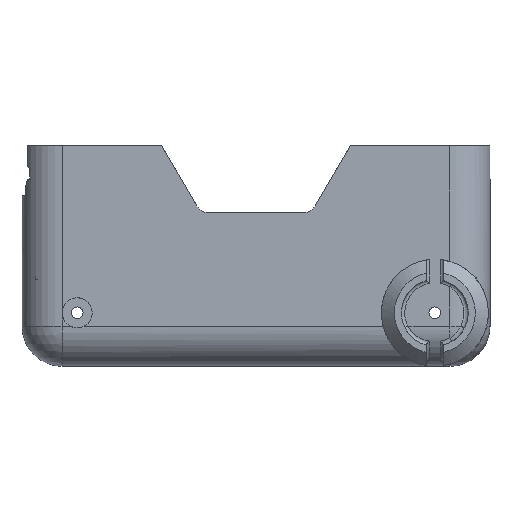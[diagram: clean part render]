
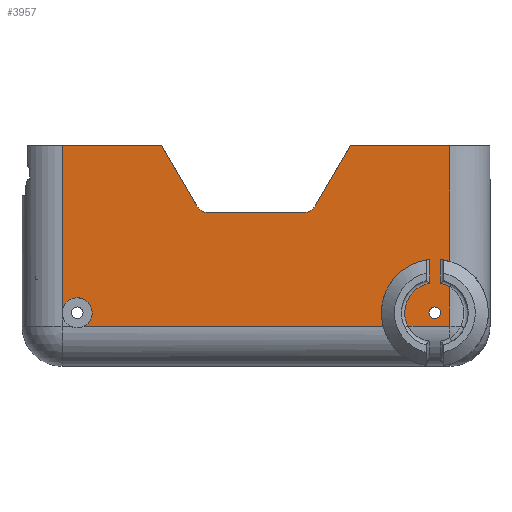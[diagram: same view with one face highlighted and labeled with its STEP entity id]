
A CAD part, left-side view. The second image highlights one B-rep face of the part: STEP entity #3957.
In plain terms, the highlighted planar face has unit normal (-1, 0, 0).
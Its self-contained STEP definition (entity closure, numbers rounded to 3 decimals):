
#137=CIRCLE('',#4210,4.5);
#145=CIRCLE('',#4223,8.);
#146=CIRCLE('',#4224,2.);
#147=CIRCLE('',#4225,2.);
#148=CIRCLE('',#4226,2.25);
#149=CIRCLE('',#4227,8.);
#150=CIRCLE('',#4228,4.5);
#151=CIRCLE('',#4229,0.875);
#437=VERTEX_POINT('',#6662);
#440=VERTEX_POINT('',#6680);
#449=VERTEX_POINT('',#7079);
#451=VERTEX_POINT('',#7086);
#452=VERTEX_POINT('',#7088);
#456=VERTEX_POINT('',#7117);
#457=VERTEX_POINT('',#7118);
#463=VERTEX_POINT('',#7168);
#464=VERTEX_POINT('',#7169);
#465=VERTEX_POINT('',#7171);
#466=VERTEX_POINT('',#7173);
#467=VERTEX_POINT('',#7175);
#468=VERTEX_POINT('',#7177);
#469=VERTEX_POINT('',#7179);
#470=VERTEX_POINT('',#7181);
#471=VERTEX_POINT('',#7182);
#472=VERTEX_POINT('',#7184);
#473=VERTEX_POINT('',#7186);
#474=VERTEX_POINT('',#7188);
#475=VERTEX_POINT('',#7190);
#476=VERTEX_POINT('',#7193);
#798=VECTOR('',#4658,1.);
#800=VECTOR('',#4666,1.);
#805=VECTOR('',#4681,1.);
#806=VECTOR('',#4685,1.);
#807=VECTOR('',#4686,1.);
#808=VECTOR('',#4689,1.);
#809=VECTOR('',#4692,1.);
#810=VECTOR('',#4693,1.);
#811=VECTOR('',#4698,1.);
#1206=LINE('',#7080,#798);
#1208=LINE('',#7087,#800);
#1213=LINE('',#7165,#805);
#1214=LINE('',#7170,#806);
#1215=LINE('',#7172,#807);
#1216=LINE('',#7176,#808);
#1217=LINE('',#7180,#809);
#1218=LINE('',#7183,#810);
#1219=LINE('',#7189,#811);
#1704=EDGE_CURVE('',#440,#437,#137,.T.);
#1716=EDGE_CURVE('',#449,#440,#1206,.T.);
#1721=EDGE_CURVE('',#451,#452,#1208,.T.);
#1726=EDGE_CURVE('',#456,#457,#1208,.T.);
#1734=EDGE_CURVE('',#437,#451,#1213,.T.);
#1735=EDGE_CURVE('',#449,#463,#145,.T.);
#1736=EDGE_CURVE('',#464,#463,#1213,.T.);
#1737=EDGE_CURVE('',#464,#465,#1214,.T.);
#1738=EDGE_CURVE('',#465,#466,#1215,.T.);
#1739=EDGE_CURVE('',#466,#467,#146,.T.);
#1740=EDGE_CURVE('',#467,#468,#1216,.T.);
#1741=EDGE_CURVE('',#468,#469,#147,.T.);
#1742=EDGE_CURVE('',#469,#470,#1217,.T.);
#1743=EDGE_CURVE('',#470,#471,#1214,.T.);
#1744=EDGE_CURVE('',#472,#471,#1218,.T.);
#1745=EDGE_CURVE('',#472,#473,#148,.T.);
#1746=EDGE_CURVE('',#473,#457,#148,.T.);
#1747=EDGE_CURVE('',#456,#474,#149,.T.);
#1748=EDGE_CURVE('',#475,#474,#1219,.T.);
#1749=EDGE_CURVE('',#452,#475,#150,.T.);
#1750=EDGE_CURVE('',#476,#476,#151,.T.);
#2436=ORIENTED_EDGE('',*,*,#1704,.F.);
#2437=ORIENTED_EDGE('',*,*,#1716,.F.);
#2438=ORIENTED_EDGE('',*,*,#1735,.T.);
#2439=ORIENTED_EDGE('',*,*,#1736,.F.);
#2440=ORIENTED_EDGE('',*,*,#1737,.T.);
#2441=ORIENTED_EDGE('',*,*,#1738,.T.);
#2442=ORIENTED_EDGE('',*,*,#1739,.T.);
#2443=ORIENTED_EDGE('',*,*,#1740,.T.);
#2444=ORIENTED_EDGE('',*,*,#1741,.T.);
#2445=ORIENTED_EDGE('',*,*,#1742,.T.);
#2446=ORIENTED_EDGE('',*,*,#1743,.T.);
#2447=ORIENTED_EDGE('',*,*,#1744,.F.);
#2448=ORIENTED_EDGE('',*,*,#1745,.T.);
#2449=ORIENTED_EDGE('',*,*,#1746,.T.);
#2450=ORIENTED_EDGE('',*,*,#1726,.F.);
#2451=ORIENTED_EDGE('',*,*,#1747,.T.);
#2452=ORIENTED_EDGE('',*,*,#1748,.F.);
#2453=ORIENTED_EDGE('',*,*,#1749,.F.);
#2454=ORIENTED_EDGE('',*,*,#1721,.F.);
#2455=ORIENTED_EDGE('',*,*,#1734,.F.);
#2456=ORIENTED_EDGE('',*,*,#1750,.T.);
#3468=EDGE_LOOP('',(#2436,#2437,#2438,#2439,#2440,#2441,#2442,#2443,#2444,
#2445,#2446,#2447,#2448,#2449,#2450,#2451,#2452,#2453,#2454,#2455));
#3469=EDGE_LOOP('',(#2456));
#3714=FACE_BOUND('',#3468,.T.);
#3715=FACE_BOUND('',#3469,.T.);
#3957=ADVANCED_FACE('',(#3714,#3715),#8405,.T.);
#4210=AXIS2_PLACEMENT_3D('',#6681,#4650,#4651);
#4222=AXIS2_PLACEMENT_3D('',#7166,#4682,$);
#4223=AXIS2_PLACEMENT_3D('',#7167,#4683,#4684);
#4224=AXIS2_PLACEMENT_3D('',#7174,#4687,#4688);
#4225=AXIS2_PLACEMENT_3D('',#7178,#4690,#4691);
#4226=AXIS2_PLACEMENT_3D('',#7185,#4694,#4695);
#4227=AXIS2_PLACEMENT_3D('',#7187,#4696,#4697);
#4228=AXIS2_PLACEMENT_3D('',#7191,#4699,#4700);
#4229=AXIS2_PLACEMENT_3D('',#7192,#4701,#4702);
#4650=DIRECTION('',(1.,0.,0.));
#4651=DIRECTION('',(0.,-1.602,4.205));
#4658=DIRECTION('',(0.,0.,-1.));
#4666=DIRECTION('',(0.,1.,0.));
#4681=DIRECTION('',(0.,0.,-1.));
#4682=DIRECTION('',(-1.,0.,0.));
#4683=DIRECTION('',(1.,0.,0.));
#4684=DIRECTION('',(0.,0.,-8.));
#4685=DIRECTION('',(0.,1.,0.));
#4686=DIRECTION('',(0.,0.506,-0.862));
#4687=DIRECTION('',(1.,0.,0.));
#4688=DIRECTION('',(0.,0.,-2.));
#4689=DIRECTION('',(0.,1.,0.));
#4690=DIRECTION('',(1.,0.,0.));
#4691=DIRECTION('',(0.,0.,-2.));
#4692=DIRECTION('',(0.,0.506,0.862));
#4693=DIRECTION('',(0.,0.,1.));
#4694=DIRECTION('',(1.,0.,0.));
#4695=DIRECTION('',(0.,0.,2.25));
#4696=DIRECTION('',(1.,0.,0.));
#4697=DIRECTION('',(0.,0.,-8.));
#4698=DIRECTION('',(0.,0.,1.));
#4699=DIRECTION('',(1.,0.,0.));
#4700=DIRECTION('',(0.,4.054,1.954));
#4701=DIRECTION('',(1.,0.,0.));
#4702=DIRECTION('',(0.,0.,0.875));
#6662=CARTESIAN_POINT('',(-29.,-29.,11.897));
#6680=CARTESIAN_POINT('',(-29.,-27.541,12.43));
#6681=CARTESIAN_POINT('',(-29.,-26.75,8.));
#7079=CARTESIAN_POINT('',(-29.,-27.541,15.961));
#7080=CARTESIAN_POINT('',(-29.,-27.541,7.181));
#7086=CARTESIAN_POINT('',(-29.,-29.,6.));
#7087=CARTESIAN_POINT('',(-29.,0.,6.));
#7088=CARTESIAN_POINT('',(-29.,-22.719,6.));
#7117=CARTESIAN_POINT('',(-29.,-19.004,6.));
#7118=CARTESIAN_POINT('',(-29.,25.719,6.));
#7165=CARTESIAN_POINT('',(-29.,-29.,0.));
#7166=CARTESIAN_POINT('',(-29.,0.,0.));
#7167=CARTESIAN_POINT('',(-29.,-26.75,8.));
#7168=CARTESIAN_POINT('',(-29.,-29.,15.677));
#7169=CARTESIAN_POINT('',(-29.,-29.,33.));
#7170=CARTESIAN_POINT('',(-29.,35.,33.));
#7171=CARTESIAN_POINT('',(-29.,-14.148,33.));
#7172=CARTESIAN_POINT('',(-29.,-3.806,15.389));
#7173=CARTESIAN_POINT('',(-29.,-8.855,23.987));
#7174=CARTESIAN_POINT('',(-29.,-7.131,25.));
#7175=CARTESIAN_POINT('',(-29.,-7.131,23.));
#7176=CARTESIAN_POINT('',(-29.,1.783,23.));
#7177=CARTESIAN_POINT('',(-29.,7.131,23.));
#7178=CARTESIAN_POINT('',(-29.,7.131,25.));
#7179=CARTESIAN_POINT('',(-29.,8.855,23.987));
#7180=CARTESIAN_POINT('',(-29.,3.806,15.389));
#7181=CARTESIAN_POINT('',(-29.,14.148,33.));
#7182=CARTESIAN_POINT('',(-29.,29.,33.));
#7183=CARTESIAN_POINT('',(-29.,29.,0.));
#7184=CARTESIAN_POINT('',(-29.,29.,8.));
#7185=CARTESIAN_POINT('',(-29.,26.75,8.));
#7186=CARTESIAN_POINT('',(-29.,26.75,10.25));
#7187=CARTESIAN_POINT('',(-29.,-26.75,8.));
#7188=CARTESIAN_POINT('',(-29.,-25.959,15.961));
#7189=CARTESIAN_POINT('',(-29.,-25.959,7.181));
#7190=CARTESIAN_POINT('',(-29.,-25.959,12.43));
#7191=CARTESIAN_POINT('',(-29.,-26.75,8.));
#7192=CARTESIAN_POINT('',(-29.,-26.75,8.));
#7193=CARTESIAN_POINT('',(-29.,-26.75,8.875));
#8405=PLANE('',#4222);
